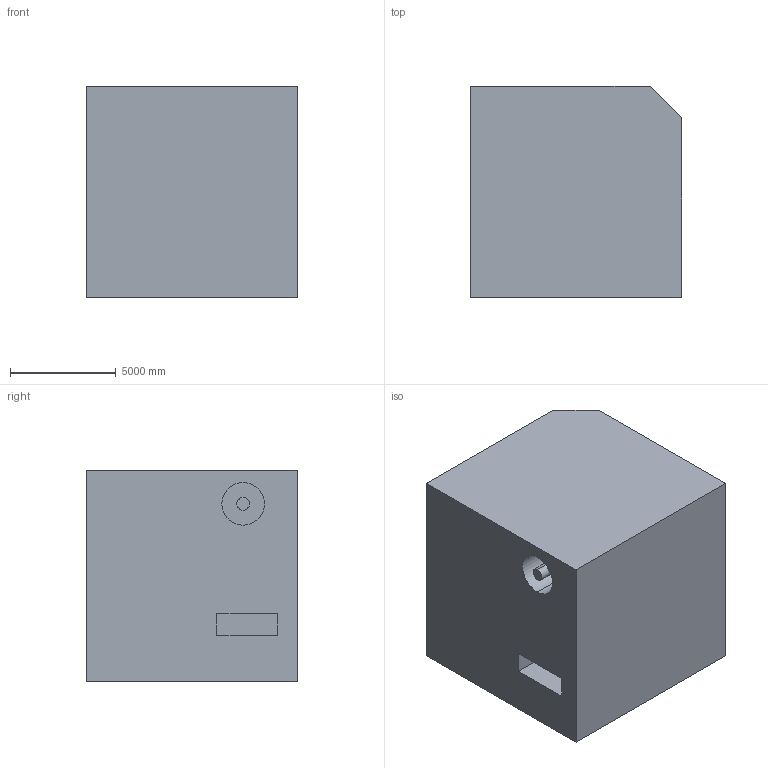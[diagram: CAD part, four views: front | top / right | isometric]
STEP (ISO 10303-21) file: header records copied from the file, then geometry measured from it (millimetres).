
FILE_DESCRIPTION (( 'STEP AP203' ), '1' );
FILE_NAME ('570.STEP', '2022-07-29T11:52:29', ( 'user' ), ( '' ), 'SwSTEP 2.0', 'SolidWorks 2021', '' );
FILE_SCHEMA (( 'CONFIG_CONTROL_DESIGN' ));
Length unit declared in the file: centimetre
Products named in the file (1): 570
Bounding box: 10000 x 10000 x 10000 mm (x, y, z)
Volume: 908926047143.4 mm3; surface area: 741252486.3 mm2
Topology: 1 solids, 1 shells, 33 faces, 81 edges, 54 vertices
Faces by surface type: plane 23, cylinder 10
Entity records: 1052 total; most frequent: CARTESIAN_POINT 169, DIRECTION 169, ORIENTED_EDGE 162, EDGE_CURVE 81, LINE 61, VECTOR 61, AXIS2_PLACEMENT_3D 54, VERTEX_POINT 54
